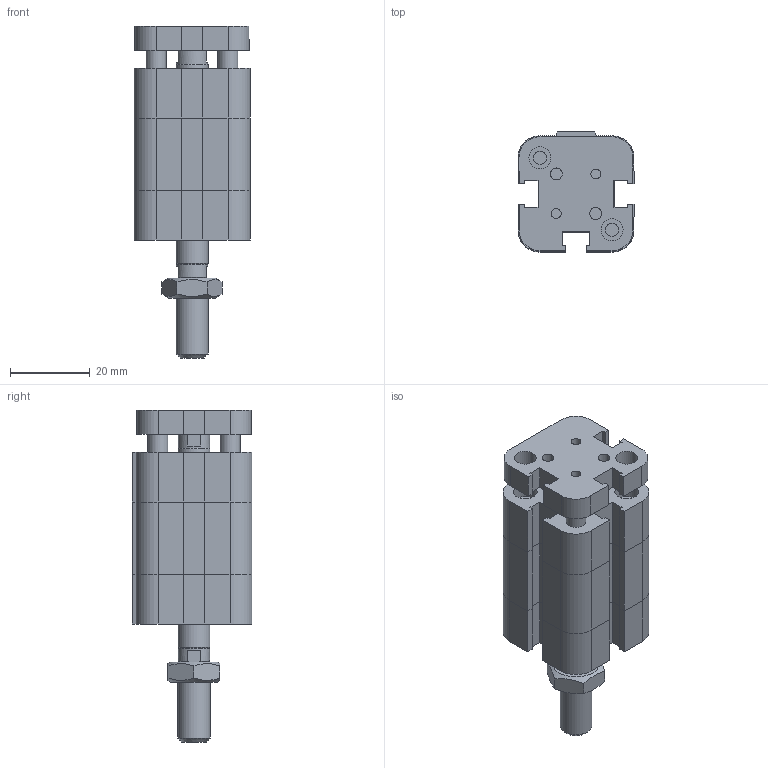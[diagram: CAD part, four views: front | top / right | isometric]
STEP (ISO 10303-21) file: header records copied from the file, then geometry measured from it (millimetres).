
FILE_DESCRIPTION((''),'2;1');
FILE_NAME('I:\Area Tecnica\Disegni\VARIE-3D\Componenti\EUROPE\15##_###_####_09_#\1581_16_0005_09_1.iam.stp','2009-04-20T15:42:27',(''),(''),'Autodesk Inventor 2009','Autodesk Inventor 2009','');
FILE_SCHEMA(('AUTOMOTIVE_DESIGN { 1 0 10303 214 1 1 1 1 }'));
Length unit declared in the file: millimetre
Products named in the file (4): 1581_16_0005_09_1; 1581_16_0005_08_1_C; 1561_16_0005_09_1_SA; DBM8
Assembly tree (3 placements, depth 2):
  1581_16_0005_09_1
    1581_16_0005_08_1_C
    1561_16_0005_09_1_SA
    DBM8
Bounding box: 29 x 30 x 83 mm (x, y, z)
Volume: 36284.1 mm3; surface area: 16554 mm2
Topology: 3 solids, 3 shells, 223 faces, 523 edges, 326 vertices
Faces by surface type: plane 144, bspline 46, cylinder 23, cone 10
Full cylindrical faces by diameter (mm): 5 x2, 6.5 x1, 7.8 x2, 8 x2
Entity records: 6544 total; most frequent: CARTESIAN_POINT 1548, ORIENTED_EDGE 934, DIRECTION 916, EDGE_CURVE 467, VECTOR 346, LINE 346, VERTEX_POINT 309, EDGE_LOOP 298
